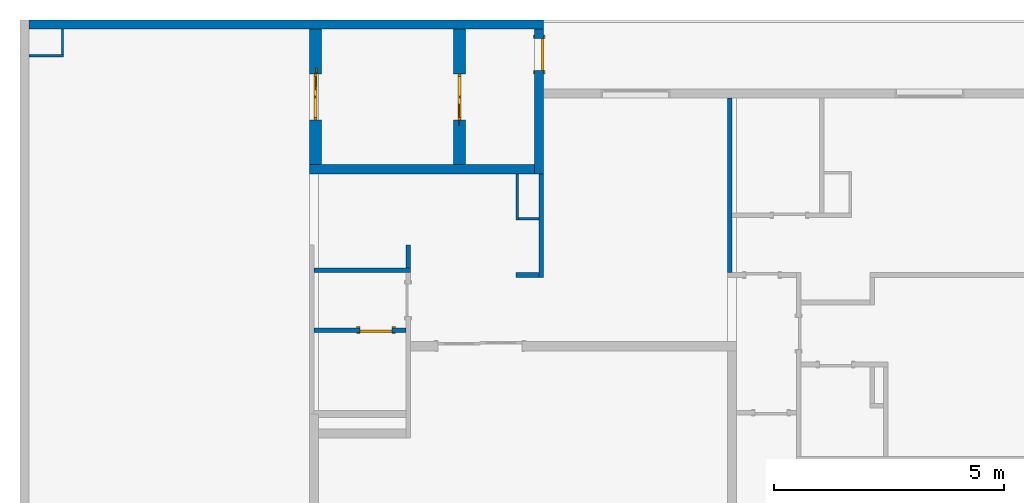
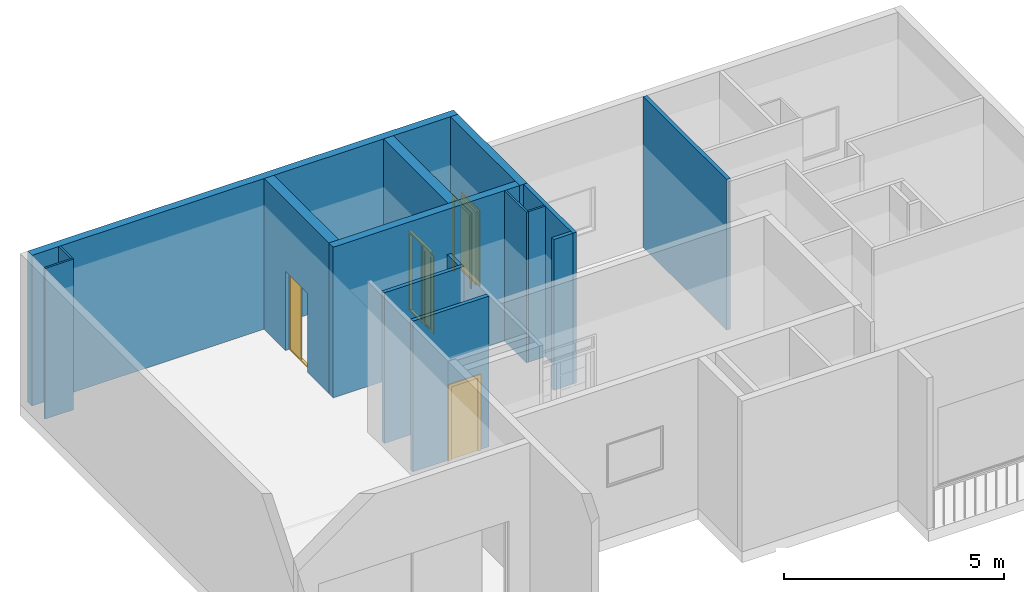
# One storey, part 3 of 7: 15 walls, 4 doors, 4 openings.
"""IFC2X3 building model written with IfcOpenShell, lengths in metres."""

from ifc_helpers import new_model, entity, si_unit, converted_unit, derived_unit, direction, frame, frame_2d, origin, origin_2d_with_axis, place, context, subcontext, project, spatial, polyline, rectangle, outline, extrude, faceted_brep, source, transform, mapped, material, material_list, layer, layer_set, layer_usage, type_object, type_shapes, element, fill, save


model = new_model("IFC2X3")

# Units and contexts
model_context = context("Model", 3, precision=1e-05, world=origin(), true_north=direction((6.123031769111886e-17, 1.0)))
body_context = subcontext(model_context, "Body", "Model", "MODEL_VIEW")
ifc_project = project(units=[si_unit("LENGTHUNIT", "METRE"), si_unit("AREAUNIT", "SQUARE_METRE"), si_unit("VOLUMEUNIT", "CUBIC_METRE"), converted_unit("PLANEANGLEUNIT", "DEGREE", entity("IfcRatioMeasure", 0.017453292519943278), si_unit("PLANEANGLEUNIT", "RADIAN"), dimensions=[0, 0, 0, 0, 0, 0, 0]), si_unit("MASSUNIT", "GRAM", prefix="KILO"), derived_unit("MASSDENSITYUNIT", [(si_unit("MASSUNIT", "GRAM", prefix="KILO"), 1), (si_unit("LENGTHUNIT", "METRE"), -3)]), derived_unit("MOMENTOFINERTIAUNIT", [(si_unit("LENGTHUNIT", "METRE"), 4)]), si_unit("TIMEUNIT", "SECOND"), si_unit("FREQUENCYUNIT", "HERTZ"), si_unit("THERMODYNAMICTEMPERATUREUNIT", "DEGREE_CELSIUS"), derived_unit("THERMALTRANSMITTANCEUNIT", [(si_unit("MASSUNIT", "GRAM", prefix="KILO"), 1), (si_unit("THERMODYNAMICTEMPERATUREUNIT", "KELVIN"), -1), (si_unit("TIMEUNIT", "SECOND"), -3)]), derived_unit("VOLUMETRICFLOWRATEUNIT", [(si_unit("LENGTHUNIT", "METRE"), 3), (si_unit("TIMEUNIT", "SECOND"), -1)]), derived_unit("MASSFLOWRATEUNIT", [(si_unit("MASSUNIT", "GRAM", prefix="KILO"), 1), (si_unit("TIMEUNIT", "SECOND"), -1)]), derived_unit("ROTATIONALFREQUENCYUNIT", [(si_unit("TIMEUNIT", "SECOND"), -1)]), si_unit("ELECTRICCURRENTUNIT", "AMPERE"), si_unit("ELECTRICVOLTAGEUNIT", "VOLT"), si_unit("POWERUNIT", "WATT"), si_unit("FORCEUNIT", "NEWTON", prefix="KILO"), si_unit("ILLUMINANCEUNIT", "LUX"), si_unit("LUMINOUSFLUXUNIT", "LUMEN"), si_unit("LUMINOUSINTENSITYUNIT", "CANDELA"), derived_unit("USERDEFINED", [(si_unit("MASSUNIT", "GRAM", prefix="KILO"), -1), (si_unit("LENGTHUNIT", "METRE"), -2), (si_unit("TIMEUNIT", "SECOND"), 3), (si_unit("LUMINOUSFLUXUNIT", "LUMEN"), 1)]), derived_unit("SOUNDPOWERUNIT", [(si_unit("MASSUNIT", "GRAM", prefix="KILO"), 1), (si_unit("LENGTHUNIT", "METRE"), 2), (si_unit("TIMEUNIT", "SECOND"), -3)]), derived_unit("SOUNDPRESSUREUNIT", [(si_unit("MASSUNIT", "GRAM", prefix="KILO"), 1), (si_unit("LENGTHUNIT", "METRE"), -1), (si_unit("TIMEUNIT", "SECOND"), -2)]), derived_unit("LINEARVELOCITYUNIT", [(si_unit("LENGTHUNIT", "METRE"), 1), (si_unit("TIMEUNIT", "SECOND"), -1)]), si_unit("PRESSUREUNIT", "PASCAL"), derived_unit("USERDEFINED", [(si_unit("LENGTHUNIT", "METRE"), -2), (si_unit("MASSUNIT", "GRAM", prefix="KILO"), 1), (si_unit("TIMEUNIT", "SECOND"), -2)]), derived_unit("LINEARFORCEUNIT", [(si_unit("MASSUNIT", "GRAM", prefix="KILO"), 1), (si_unit("LENGTHUNIT", "METRE"), 1), (si_unit("TIMEUNIT", "SECOND"), -2), (si_unit("LENGTHUNIT", "METRE"), -1)]), derived_unit("PLANARFORCEUNIT", [(si_unit("MASSUNIT", "GRAM", prefix="KILO"), 1), (si_unit("LENGTHUNIT", "METRE"), 1), (si_unit("TIMEUNIT", "SECOND"), -2), (si_unit("LENGTHUNIT", "METRE"), -2)])], contexts=[model_context])

# Site, building, storey
site_placement = place(None, origin())
site = spatial("IfcSite", under=ifc_project, at=site_placement, Name="Default", CompositionType="ELEMENT")
building_placement = place(site_placement, origin())
building = spatial("IfcBuilding", under=site, at=building_placement, CompositionType="ELEMENT")
storey_placement = place(building_placement, frame((0.0, 0.0, 5.639999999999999)))
storey = spatial("IfcBuildingStorey", under=building, at=storey_placement, Name="F1", CompositionType="ELEMENT", Elevation=5.639999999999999)

# Wall
ifc_material_1 = material(Name="Masonry - Concrete Block")
ifc_layer_1 = layer(ifc_material_1, 0.2)
ifc_layer_set_1 = layer_set([ifc_layer_1], Name="Basic Wall:CW 200")
ifc_layer_usage_1 = layer_usage(ifc_layer_set_1, "AXIS2", "NEGATIVE", 0.1)
wall_type_1 = type_object("IfcWallType", Name="Basic Wall:CW 200", PredefinedType="STANDARD", material=ifc_layer_set_1)
wall_1_placement = place(storey_placement, frame((6.807683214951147, 5.902607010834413, 0.0)))
element("IfcWallStandardCase", 1, at=wall_1_placement, inside=storey, type_object=wall_type_1, material=ifc_layer_usage_1, Name="Basic Wall:CW 200", ObjectType="Basic Wall:CW 200", context=body_context, shape_type="SweptSolid", body=[
    extrude(rectangle(XDim=11.199999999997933, YDim=0.2, at=frame_2d((5.599999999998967, -2.220446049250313e-16), x_axis=(-1.0, 0.0))), origin(), (0.0, 0.0, 1.0), 4.19),
])

# Wall, opening, door
ifc_layer_usage_2 = layer_usage(ifc_layer_set_1, "AXIS2", "NEGATIVE", 0.1)
wall_2_placement = place(storey_placement, frame((17.90768321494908, 5.802607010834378, 0.0), z_axis=(0.0, 0.0, 1.0), x_axis=(0.0, -1.0, 0.0)))
wall_2 = element("IfcWallStandardCase", 2, at=wall_2_placement, inside=storey, type_object=wall_type_1, material=ifc_layer_usage_2, Name="Basic Wall:CW 200", ObjectType="Basic Wall:CW 200", context=body_context, shape_type="SweptSolid", body=[
    extrude(rectangle(XDim=3.150000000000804, YDim=0.2, at=frame_2d((1.5750000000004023, -9.367506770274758e-16), x_axis=(1.0, 0.0))), origin(), (0.0, 0.0, 1.0), 4.19),
])
opening_1_placement = place(wall_2_placement, frame((0.19999999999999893, -0.10000000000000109, 0.0)))
opening_1 = element("IfcOpeningElement", 3, at=opening_1_placement, cuts=wall_2, Name="M_Single-Flush:0762 x 2032mm:1", ObjectType="Opening", context=body_context, shape_type="SweptSolid", body=[
    extrude(rectangle(XDim=0.6999999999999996, YDim=2.0319999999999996, at=frame_2d((1.0159999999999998, 0.3500000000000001), x_axis=(0.0, 1.0))), frame((0.0, 0.0, 0.0), z_axis=(0.0, 1.0, 0.0), x_axis=(0.0, 0.0, 1.0)), (0.0, 0.0, 1.0), 0.2),
])
ifc_material_2 = material(Name="Door - Frame")
ifc_material_3 = material(Name="Door - Panel")
ifc_material_list_1 = material_list([ifc_material_2, ifc_material_2, ifc_material_3])
ifc_material_list_2 = material_list([ifc_material_2, ifc_material_2, ifc_material_3])
door_style_1 = type_object("IfcDoorStyle", Name="M_Single-Flush:0762 x 2032mm", ConstructionType="NOTDEFINED", OperationType="NOTDEFINED", ParameterTakesPrecedence=False, Sizeable=False, material=ifc_material_list_2)
shared_shape_1 = source(origin(), body_context, "Body", "SweptSolid", [
    extrude(outline(polyline([(-0.426, -1.0729999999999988), (0.4259999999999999, -1.0729999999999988), (0.4259999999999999, 1.0350000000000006), (0.3499999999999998, 1.0350000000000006), (0.3499999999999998, -0.9970000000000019), (-0.3499999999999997, -0.9970000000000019), (-0.3499999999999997, 1.0350000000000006), (-0.426, 1.0350000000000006), (-0.426, -1.0729999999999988)])), frame((0.35000000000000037, 0.19999999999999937, 1.0350000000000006), z_axis=(0.0, 1.0, 0.0), x_axis=(1.0, 0.0, 0.0)), (0.0, 0.0, 1.0), 0.024999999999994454),
    extrude(outline(polyline([(-1.0729999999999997, -0.42599999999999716), (1.0349999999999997, -0.42599999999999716), (1.0349999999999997, -0.3500000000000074), (-0.9969999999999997, -0.3500000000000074), (-0.9969999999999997, 0.35000000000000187), (1.0349999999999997, 0.35000000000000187), (1.0349999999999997, 0.4260000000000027), (-1.0729999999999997, 0.4260000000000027), (-1.0729999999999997, -0.42599999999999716)])), frame((0.35000000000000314, -0.02500000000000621, 1.0349999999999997), z_axis=(0.0, 1.0, 0.0), x_axis=(0.0, 0.0, -1.0)), (0.0, 0.0, 1.0), 0.02500000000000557),
    extrude(rectangle(XDim=0.051000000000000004, YDim=0.6999999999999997, at=frame_2d((-3.469446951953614e-18, 0.0), x_axis=(1.0, 0.0))), frame((0.35000000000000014, 0.17449999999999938, 0.0), z_axis=(0.0, 0.0, 1.0), x_axis=(0.0, 1.0, 0.0)), (0.0, 0.0, 1.0), 2.0319999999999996),
])
type_shapes(door_style_1, [shared_shape_1])
door_1_placement = place(opening_1_placement, origin())
door_1 = element("IfcDoor", 4, at=door_1_placement, inside=storey, type_object=door_style_1, material=ifc_material_list_1, Name="M_Single-Flush:0762 x 2032mm", ObjectType="M_Single-Flush:0762 x 2032mm", OverallHeight=2.0319999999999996, OverallWidth=0.7000000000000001, context=body_context, shape_type="MappedRepresentation", body=[
    mapped(shared_shape_1, transform((0.0, 0.0, 0.0), scale=1.0)),
])
fill(opening_1, door_1)

# Walls
ifc_layer_usage_3 = layer_usage(ifc_layer_set_1, "AXIS2", "NEGATIVE", 0.1)
wall_3_placement = place(storey_placement, frame((17.807683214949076, 2.7526070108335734, 0.0), z_axis=(0.0, 0.0, 1.0), x_axis=(-1.0, 0.0, 0.0)))
element("IfcWallStandardCase", 5, at=wall_3_placement, inside=storey, type_object=wall_type_1, material=ifc_layer_usage_3, Name="Basic Wall:CW 200", ObjectType="Basic Wall:CW 200", context=body_context, shape_type="SweptSolid", body=[
    extrude(rectangle(XDim=4.900000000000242, YDim=0.2, at=frame_2d((2.450000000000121, 0.0), x_axis=(-1.0, 0.0))), origin(), (0.0, 0.0, 1.0), 4.19),
])
ifc_layer_2 = layer(ifc_material_1, 0.1)
ifc_layer_set_2 = layer_set([ifc_layer_2], Name="Basic Wall:CW 100")
ifc_layer_usage_4 = layer_usage(ifc_layer_set_2, "AXIS2", "NEGATIVE", 0.05)
wall_type_2 = type_object("IfcWallType", Name="Basic Wall:CW 100", PredefinedType="STANDARD", material=ifc_layer_set_2)
wall_4_placement = place(storey_placement, frame((13.007683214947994, 0.5526070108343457, 0.0)))
element("IfcWallStandardCase", 6, at=wall_4_placement, inside=storey, type_object=wall_type_2, material=ifc_layer_usage_4, Name="Basic Wall:CW 100", ObjectType="Basic Wall:CW 100", context=body_context, shape_type="SweptSolid", body=[
    extrude(rectangle(XDim=2.100000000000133, YDim=0.1, at=frame_2d((1.0500000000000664, 0.0), x_axis=(-1.0, 0.0))), origin(), (0.0, 0.0, 1.0), 4.19),
])
ifc_layer_usage_5 = layer_usage(ifc_layer_set_2, "AXIS2", "NEGATIVE", 0.05)
wall_5_placement = place(storey_placement, frame((15.057683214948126, 0.602607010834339, 0.0), z_axis=(0.0, 0.0, 1.0), x_axis=(0.0, 1.0, 0.0)))
element("IfcWallStandardCase", 7, at=wall_5_placement, inside=storey, type_object=wall_type_2, material=ifc_layer_usage_5, Name="Basic Wall:CW 100", ObjectType="Basic Wall:CW 100", context=body_context, shape_type="SweptSolid", body=[
    extrude(rectangle(XDim=0.5000000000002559, YDim=0.09999999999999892, at=frame_2d((0.25000000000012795, 0.0), x_axis=(-1.0, 0.0))), origin(), (0.0, 0.0, 1.0), 4.19),
])

# Wall, opening, door
ifc_layer_usage_6 = layer_usage(ifc_layer_set_2, "AXIS2", "NEGATIVE", 0.05)
wall_6_placement = place(storey_placement, frame((15.007683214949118, -0.7473929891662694, 0.0), z_axis=(0.0, 0.0, 1.0), x_axis=(-1.0, 0.0, 0.0)))
wall_6 = element("IfcWallStandardCase", 8, at=wall_6_placement, inside=storey, type_object=wall_type_2, material=ifc_layer_usage_6, Name="Basic Wall:CW 100", ObjectType="Basic Wall:CW 100", context=body_context, shape_type="SweptSolid", body=[
    extrude(rectangle(XDim=2.0000000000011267, YDim=0.1, at=frame_2d((1.000000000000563, -1.0408340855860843e-17), x_axis=(1.0, 0.0))), origin(), (0.0, 0.0, 1.0), 4.19),
])
opening_2_placement = place(wall_6_placement, frame((0.29999999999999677, -0.05000000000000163, 0.0)))
opening_2 = element("IfcOpeningElement", 9, at=opening_2_placement, cuts=wall_6, Name="M_Single-Flush:0762 x 2032mm:1", ObjectType="Opening", context=body_context, shape_type="SweptSolid", body=[
    extrude(rectangle(XDim=0.6999999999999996, YDim=2.0319999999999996, at=frame_2d((1.0159999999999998, 0.34999999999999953), x_axis=(0.0, 1.0))), frame((0.0, 0.0, 0.0), z_axis=(0.0, 1.0, 0.0), x_axis=(0.0, 0.0, 1.0)), (0.0, 0.0, 1.0), 0.1),
])
ifc_material_list_3 = material_list([ifc_material_2, ifc_material_3])
ifc_material_list_4 = material_list([ifc_material_2, ifc_material_2, ifc_material_3])
door_style_2 = type_object("IfcDoorStyle", Name="M_Single-Flush:0762 x 2032mm", ConstructionType="NOTDEFINED", OperationType="NOTDEFINED", ParameterTakesPrecedence=False, Sizeable=False, material=ifc_material_list_4)
shared_shape_2 = source(origin(), body_context, "Body", "SweptSolid", [
    extrude(outline(polyline([(-0.426, -1.0729999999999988), (0.4259999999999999, -1.0729999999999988), (0.4259999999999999, 1.0350000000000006), (0.3499999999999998, 1.0350000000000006), (0.3499999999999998, -0.9970000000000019), (-0.3499999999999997, -0.9970000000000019), (-0.3499999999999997, 1.0350000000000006), (-0.426, 1.0350000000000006), (-0.426, -1.0729999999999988)])), frame((0.3500000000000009, 0.10000000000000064, 1.0350000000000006), z_axis=(0.0, 1.0, 0.0), x_axis=(1.0, 0.0, 0.0)), (0.0, 0.0, 1.0), 0.024999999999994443),
    extrude(outline(polyline([(-1.0729999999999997, -0.42599999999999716), (1.0349999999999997, -0.42599999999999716), (1.0349999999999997, -0.3500000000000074), (-0.9969999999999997, -0.3500000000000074), (-0.9969999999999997, 0.35000000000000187), (1.0349999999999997, 0.35000000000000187), (1.0349999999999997, 0.4260000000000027), (-1.0729999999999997, 0.4260000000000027), (-1.0729999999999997, -0.42599999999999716)])), frame((0.35000000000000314, -0.025000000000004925, 1.0349999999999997), z_axis=(0.0, 1.0, 0.0), x_axis=(0.0, 0.0, -1.0)), (0.0, 0.0, 1.0), 0.025000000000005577),
    extrude(rectangle(XDim=0.051000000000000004, YDim=0.6999999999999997, at=origin_2d_with_axis()), frame((0.3500000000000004, 0.07450000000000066, 0.0), z_axis=(0.0, 0.0, 1.0), x_axis=(0.0, 1.0, 0.0)), (0.0, 0.0, 1.0), 2.0319999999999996),
])
type_shapes(door_style_2, [shared_shape_2])
door_2_placement = place(opening_2_placement, origin())
door_2 = element("IfcDoor", 10, at=door_2_placement, inside=storey, type_object=door_style_2, material=ifc_material_list_3, Name="M_Single-Flush:0762 x 2032mm", ObjectType="M_Single-Flush:0762 x 2032mm", OverallHeight=2.0319999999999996, OverallWidth=0.699999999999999, context=body_context, shape_type="MappedRepresentation", body=[
    mapped(shared_shape_2, transform((0.0, 0.0, 0.0), scale=1.0)),
])
fill(opening_2, door_2)

# Walls
ifc_layer_usage_7 = layer_usage(ifc_layer_set_2, "AXIS2", "NEGATIVE", 0.05)
wall_7_placement = place(storey_placement, frame((22.057683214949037, 0.5026070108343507, 0.0), z_axis=(0.0, 0.0, 1.0), x_axis=(0.0, 1.0, 0.0)))
element("IfcWallStandardCase", 11, at=wall_7_placement, inside=storey, type_object=wall_type_2, material=ifc_layer_usage_7, Name="Basic Wall:CW 100", ObjectType="Basic Wall:CW 100", context=body_context, shape_type="SweptSolid", body=[
    extrude(rectangle(XDim=3.800000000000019, YDim=0.10000000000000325, at=frame_2d((1.9000000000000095, 0.0), x_axis=(-1.0, 0.0))), origin(), (0.0, 0.0, 1.0), 4.19),
])
ifc_layer_usage_8 = layer_usage(ifc_layer_set_2, "AXIS2", "NEGATIVE", 0.05)
wall_8_placement = place(storey_placement, frame((17.957683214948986, 2.6526070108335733, 0.0), z_axis=(0.0, 0.0, 1.0), x_axis=(0.0, -1.0, 0.0)))
element("IfcWallStandardCase", 12, at=wall_8_placement, inside=storey, type_object=wall_type_2, material=ifc_layer_usage_8, Name="Basic Wall:CW 100", ObjectType="Basic Wall:CW 100", context=body_context, shape_type="SweptSolid", body=[
    extrude(rectangle(XDim=2.2499999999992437, YDim=0.09999999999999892, at=frame_2d((1.1249999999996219, 1.0061396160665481e-16), x_axis=(-1.0, 0.0))), origin(), (0.0, 0.0, 1.0), 4.19),
])
ifc_layer_usage_9 = layer_usage(ifc_layer_set_2, "AXIS2", "NEGATIVE", 0.05)
wall_9_placement = place(storey_placement, frame((17.90768321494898, 0.45260701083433, 0.0), z_axis=(0.0, 0.0, 1.0), x_axis=(-1.0, 0.0, 0.0)))
element("IfcWallStandardCase", 13, at=wall_9_placement, inside=storey, type_object=wall_type_2, material=ifc_layer_usage_9, Name="Basic Wall:CW 100", ObjectType="Basic Wall:CW 100", context=body_context, shape_type="SweptSolid", body=[
    extrude(rectangle(XDim=0.49999999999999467, YDim=0.1, at=frame_2d((0.24999999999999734, 0.0), x_axis=(-1.0, 0.0))), origin(), (0.0, 0.0, 1.0), 4.19),
])

# Wall, opening, door
ifc_layer_3 = layer(ifc_material_1, 0.25999999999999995)
ifc_layer_set_3 = layer_set([ifc_layer_3], Name="Basic Wall:CW 260")
ifc_layer_usage_10 = layer_usage(ifc_layer_set_3, "AXIS2", "NEGATIVE", 0.12999999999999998)
wall_type_3 = type_object("IfcWallType", Name="Basic Wall:CW 260", PredefinedType="STANDARD", material=ifc_layer_set_3)
wall_10_placement = place(storey_placement, frame((16.177683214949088, 5.802607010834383, 0.0), z_axis=(0.0, 0.0, 1.0), x_axis=(0.0, -1.0, 0.0)))
wall_10 = element("IfcWallStandardCase", 14, at=wall_10_placement, inside=storey, type_object=wall_type_3, material=ifc_layer_usage_10, Name="Basic Wall:CW 260", ObjectType="Basic Wall:CW 260", context=body_context, shape_type="SweptSolid", body=[
    extrude(rectangle(XDim=2.9500000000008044, YDim=0.25999999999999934, at=frame_2d((1.4750000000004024, 1.096345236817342e-15), x_axis=(1.0, 0.0))), origin(), (0.0, 0.0, 1.0), 4.19),
])
opening_3_placement = place(wall_10_placement, frame((1.975000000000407, 0.1299999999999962, 0.0)))
opening_3 = element("IfcOpeningElement", 15, at=opening_3_placement, cuts=wall_10, Name="Parametric_Operable_Sliding_Door_6386.0004:3000W x 2400H:1", ObjectType="Opening", context=body_context, shape_type="SweptSolid", body=[
    extrude(rectangle(XDim=2.199999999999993, YDim=1.0000000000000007, at=frame_2d((1.0999999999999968, 0.5000000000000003), x_axis=(1.0, 0.0))), frame((0.0, 0.0, 0.0), z_axis=(0.0, -1.0, 0.0), x_axis=(0.0, 0.0, 1.0)), (0.0, 0.0, 1.0), 0.25999999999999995),
])
ifc_material_4 = material(Name="Window Glass")
ifc_material_5 = material(Name="Window Frame")
ifc_material_list_5 = material_list([ifc_material_4, ifc_material_5])
ifc_material_list_6 = material_list([ifc_material_4, ifc_material_5, ifc_material_4, ifc_material_5])
door_style_3 = type_object("IfcDoorStyle", Name="Parametric_Operable_Sliding_Door_6386.0004:3000W x 2400H", ConstructionType="NOTDEFINED", OperationType="NOTDEFINED", ParameterTakesPrecedence=False, Sizeable=False, material=ifc_material_list_6)
shared_shape_3 = source(origin(), body_context, "Body", "Brep", [
    faceted_brep([(0.720000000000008, 0.11750000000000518, 2.080000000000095), (0.720000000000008, 0.11750000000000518, 0.07000000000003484), (0.720000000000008, 0.10750000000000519, 0.07000000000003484), (0.720000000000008, 0.10750000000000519, 2.080000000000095), (1.0550000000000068, 0.11750000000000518, 2.080000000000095), (1.0550000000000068, 0.11750000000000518, 0.07000000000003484), (1.0550000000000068, 0.10750000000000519, 0.07000000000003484), (1.0550000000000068, 0.10750000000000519, 2.080000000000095)], [[[0, 1, 2, 3]], [[1, 0, 4, 5]], [[2, 1, 5, 6]], [[3, 2, 6, 7]], [[4, 7, 6, 5]], [[0, 3, 7, 4]]]),
    faceted_brep([(1.0550000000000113, 0.09999999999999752, 0.06999999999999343), (1.0550000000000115, 0.12499999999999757, 0.0699999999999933), (1.0, 0.12499999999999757, 0.0699999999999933), (1.0, 0.09999999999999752, 0.0699999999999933), (0.7200000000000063, 0.09999999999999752, 0.06999999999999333), (0.7200000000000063, 0.12499999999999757, 0.06999999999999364), (0.7200000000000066, 0.12499999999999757, 2.080000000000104), (0.7200000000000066, 0.09999999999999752, 2.080000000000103), (1.0550000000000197, 0.12499999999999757, 2.080000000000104), (1.0, 0.12499999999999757, 2.080000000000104), (1.0, 0.12499999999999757, 2.1500000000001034), (1.125000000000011, 0.12499999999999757, 2.150000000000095), (1.125000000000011, 0.12499999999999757, 0.0), (1.0, 0.12499999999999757, 0.0), (1.0550000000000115, 0.09999999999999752, 2.080000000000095), (1.0, 0.09999999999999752, 0.0), (1.125000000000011, 0.0999999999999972, 0.0), (1.1250000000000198, 0.09999999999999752, 2.1500000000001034), (1.0, 0.09999999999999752, 2.1500000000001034), (1.0, 0.09999999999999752, 2.080000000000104), (0.6500000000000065, 0.09999999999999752, 0.02500000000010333), (0.6500000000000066, 0.09999999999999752, 2.1499999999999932), (0.6500000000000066, 0.12499999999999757, 2.1500000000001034), (0.6500000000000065, 0.12499999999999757, 0.025000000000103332), (0.0499999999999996, 0.09500000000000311, 0.02500000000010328), (0.9499999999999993, 0.0950000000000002, 0.025000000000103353), (0.9499999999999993, 0.09999999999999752, 0.02500000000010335), (0.9499999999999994, 0.12499999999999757, 0.025000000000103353), (0.9499999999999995, 0.1650000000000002, 0.025000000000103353), (0.04999999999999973, 0.1650000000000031, 0.02500000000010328), (1.0, 0.09500000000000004, 0.0), (0.0, 0.09500000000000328, 0.0), (0.0, 0.16500000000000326, 0.0), (1.0, 0.16500000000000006, 0.0), (0.9499999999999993, 0.0950000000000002, 2.1499999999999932), (0.9499999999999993, 0.09999999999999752, 2.1500000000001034), (0.9499999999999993, 0.09999999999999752, 2.080000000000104), (0.9499999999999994, 0.12499999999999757, 2.080000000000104), (0.9499999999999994, 0.12499999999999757, 2.1500000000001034), (0.9499999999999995, 0.1650000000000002, 2.1499999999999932), (0.9499999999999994, 0.12499999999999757, 0.06999999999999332), (0.9499999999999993, 0.09999999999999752, 0.06999999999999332), (1.0, 0.09500000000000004, 2.199999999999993), (1.0, 0.165, 2.199999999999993), (0.0, 0.09500000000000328, 2.199999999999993), (0.0499999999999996, 0.09500000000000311, 2.1499999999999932), (0.0, 0.16500000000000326, 2.199999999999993), (0.04999999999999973, 0.1650000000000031, 2.1499999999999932)], [[[0, 1, 2, 3]], [[4, 5, 6, 7]], [[1, 8, 9, 10, 11, 12, 13, 2]], [[14, 0, 3, 15, 16, 17, 18, 19]], [[20, 21, 22, 23]], [[24, 25, 26, 20, 23, 27, 28, 29]], [[11, 17, 16, 12]], [[12, 16, 15, 30, 31, 32, 33, 13]], [[25, 34, 35, 36, 37, 38, 39, 28, 27, 40, 41, 26]], [[42, 30, 15, 3, 2, 13, 33, 43], [9, 19, 18, 10]], [[30, 42, 44, 31], [45, 34, 25, 24]], [[31, 44, 46, 32]], [[33, 32, 46, 43], [47, 29, 28, 39]], [[45, 24, 29, 47]], [[7, 6, 37, 36]], [[17, 11, 10, 18]], [[44, 42, 43, 46]], [[34, 45, 47, 39, 38, 22, 21, 35]], [[14, 8, 1, 0]], [[8, 14, 19, 9]], [[4, 7, 36, 35, 21, 20, 26, 41]], [[6, 5, 40, 27, 23, 22, 38, 37]], [[5, 4, 41, 40]]]),
    faceted_brep([(0.5249999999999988, 0.14499999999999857, 2.1499999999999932), (0.5249999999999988, 0.14499999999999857, 0.02500000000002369), (0.9499999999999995, 0.14499999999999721, 0.02500000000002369), (0.9499999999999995, 0.14499999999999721, 2.1499999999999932), (0.5249999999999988, 0.15099999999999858, 2.1499999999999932), (0.5249999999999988, 0.15099999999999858, 0.02500000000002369), (0.9499999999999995, 0.1509999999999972, 0.02500000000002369), (0.9499999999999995, 0.1509999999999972, 2.1499999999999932)], [[[0, 1, 2, 3]], [[1, 0, 4, 5]], [[2, 1, 5, 6]], [[3, 2, 6, 7]], [[4, 7, 6, 5]], [[0, 3, 7, 4]]]),
    faceted_brep([(0.4749999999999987, 0.12999999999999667, 2.1499999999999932), (0.4749999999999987, 0.12999999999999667, 0.025000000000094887), (0.5249999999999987, 0.1299999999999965, 0.02500000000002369), (0.5249999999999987, 0.1299999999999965, 2.1499999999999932), (0.4749999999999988, 0.16000000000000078, 2.1499999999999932), (0.4749999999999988, 0.16000000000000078, 0.025000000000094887), (0.5249999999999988, 0.16000000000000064, 0.02500000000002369), (0.5249999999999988, 0.16000000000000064, 2.1499999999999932)], [[[0, 1, 2, 3]], [[1, 0, 4, 5]], [[2, 1, 5, 6]], [[3, 2, 6, 7]], [[4, 7, 6, 5]], [[0, 3, 7, 4]]]),
])
type_shapes(door_style_3, [shared_shape_3])
door_3_placement = place(opening_3_placement, frame((-1.0, -0.259999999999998, 0.0)))
door_3 = element("IfcDoor", 16, at=door_3_placement, inside=storey, type_object=door_style_3, material=ifc_material_list_5, Name="Parametric_Operable_Sliding_Door_6386.0004:3000W x 2400H", ObjectType="Parametric_Operable_Sliding_Door_6386.0004:3000W x 2400H", OverallHeight=2.1999999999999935, OverallWidth=1.0000000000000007, context=body_context, shape_type="MappedRepresentation", body=[
    mapped(shared_shape_3, transform((0.0, 0.0, 0.0), scale=1.0)),
])
fill(opening_3, door_3)

ifc_layer_usage_11 = layer_usage(ifc_layer_set_3, "AXIS2", "NEGATIVE", 0.12999999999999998)
wall_11_placement = place(storey_placement, frame((13.037683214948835, 5.802607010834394, 0.0), z_axis=(0.0, 0.0, 1.0), x_axis=(0.0, -1.0, 0.0)))
wall_11 = element("IfcWallStandardCase", 17, at=wall_11_placement, inside=storey, type_object=wall_type_3, material=ifc_layer_usage_11, Name="Basic Wall:CW 260", ObjectType="Basic Wall:CW 260", context=body_context, shape_type="SweptSolid", body=[
    extrude(rectangle(XDim=2.950000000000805, YDim=0.25999999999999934, at=frame_2d((1.4750000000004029, 1.096345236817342e-15), x_axis=(1.0, 0.0))), origin(), (0.0, 0.0, 1.0), 4.19),
])
opening_4_placement = place(wall_11_placement, frame((0.9750000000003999, -0.12999999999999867, 0.0)))
opening_4 = element("IfcOpeningElement", 18, at=opening_4_placement, cuts=wall_11, Name="Parametric_Operable_Sliding_Door_6386.0004:3000W x 2400H:1", ObjectType="Opening", context=body_context, shape_type="SweptSolid", body=[
    extrude(rectangle(XDim=2.199999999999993, YDim=1.0000000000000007, at=frame_2d((1.0999999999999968, 0.5000000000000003), x_axis=(1.0, 0.0))), frame((0.0, 0.0, 0.0), z_axis=(0.0, 1.0, 0.0), x_axis=(0.0, 0.0, 1.0)), (0.0, 0.0, 1.0), 0.25999999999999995),
])
ifc_material_list_7 = material_list([ifc_material_4, ifc_material_5, ifc_material_4, ifc_material_5])
door_4_placement = place(opening_4_placement, frame((1.0, 0.25999999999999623, 0.0), z_axis=(0.0, 0.0, 1.0), x_axis=(-1.0, 0.0, 0.0)))
door_4 = element("IfcDoor", 19, at=door_4_placement, inside=storey, type_object=door_style_3, material=ifc_material_list_7, Name="Parametric_Operable_Sliding_Door_6386.0004:3000W x 2400H", ObjectType="Parametric_Operable_Sliding_Door_6386.0004:3000W x 2400H", OverallHeight=2.1999999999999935, OverallWidth=1.0000000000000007, context=body_context, shape_type="MappedRepresentation", body=[
    mapped(shared_shape_3, transform((0.0, 0.0, 0.0), scale=1.0)),
])
fill(opening_4, door_4)

# Walls
ifc_layer_4 = layer(ifc_material_1, 0.05)
ifc_layer_set_4 = layer_set([ifc_layer_4], Name="Basic Wall:CW 50")
ifc_layer_usage_12 = layer_usage(ifc_layer_set_4, "AXIS2", "NEGATIVE", 0.025)
wall_type_4 = type_object("IfcWallType", Name="Basic Wall:CW 50", PredefinedType="STANDARD", material=ifc_layer_set_4)
wall_12_placement = place(storey_placement, frame((17.432683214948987, 2.652607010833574, 0.0), z_axis=(0.0, 0.0, 1.0), x_axis=(0.0, -1.0, 0.0)))
element("IfcWallStandardCase", 20, at=wall_12_placement, inside=storey, type_object=wall_type_4, material=ifc_layer_usage_12, Name="Basic Wall:CW 50", ObjectType="Basic Wall:CW 50", context=body_context, shape_type="SweptSolid", body=[
    extrude(rectangle(XDim=0.9999999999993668, YDim=0.050000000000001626, at=frame_2d((0.4999999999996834, 0.0), x_axis=(-1.0, 0.0))), origin(), (0.0, 0.0, 1.0), 4.19),
])
ifc_layer_usage_13 = layer_usage(ifc_layer_set_4, "AXIS2", "NEGATIVE", 0.025)
wall_13_placement = place(storey_placement, frame((17.457683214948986, 1.6776070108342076, 0.0)))
element("IfcWallStandardCase", 21, at=wall_13_placement, inside=storey, type_object=wall_type_4, material=ifc_layer_usage_13, Name="Basic Wall:CW 50", ObjectType="Basic Wall:CW 50", context=body_context, shape_type="SweptSolid", body=[
    extrude(rectangle(XDim=0.4499999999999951, YDim=0.05, at=frame_2d((0.22499999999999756, 5.551115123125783e-17), x_axis=(-1.0, 0.0))), origin(), (0.0, 0.0, 1.0), 4.19),
])
ifc_layer_usage_14 = layer_usage(ifc_layer_set_4, "AXIS2", "NEGATIVE", 0.025)
wall_14_placement = place(storey_placement, frame((6.807683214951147, 5.227607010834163, 0.0)))
element("IfcWallStandardCase", 22, at=wall_14_placement, inside=storey, type_object=wall_type_4, material=ifc_layer_usage_14, Name="Basic Wall:CW 50", ObjectType="Basic Wall:CW 50", context=body_context, shape_type="SweptSolid", body=[
    extrude(rectangle(XDim=0.7499999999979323, YDim=0.04999999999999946, at=frame_2d((0.37499999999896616, 0.0), x_axis=(-1.0, 0.0))), origin(), (0.0, 0.0, 1.0), 4.19),
])
ifc_layer_usage_15 = layer_usage(ifc_layer_set_4, "AXIS2", "NEGATIVE", 0.025)
wall_15_placement = place(storey_placement, frame((7.532683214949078, 5.2526070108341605, 0.0), z_axis=(0.0, 0.0, 1.0), x_axis=(0.0, 1.0, 0.0)))
element("IfcWallStandardCase", 23, at=wall_15_placement, inside=storey, type_object=wall_type_4, material=ifc_layer_usage_15, Name="Basic Wall:CW 50", ObjectType="Basic Wall:CW 50", context=body_context, shape_type="SweptSolid", body=[
    extrude(rectangle(XDim=0.5500000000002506, YDim=0.04999999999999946, at=frame_2d((0.2750000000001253, -4.336808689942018e-17), x_axis=(-1.0, 0.0))), origin(), (0.0, 0.0, 1.0), 4.19),
])

save(model, "model.ifc")
